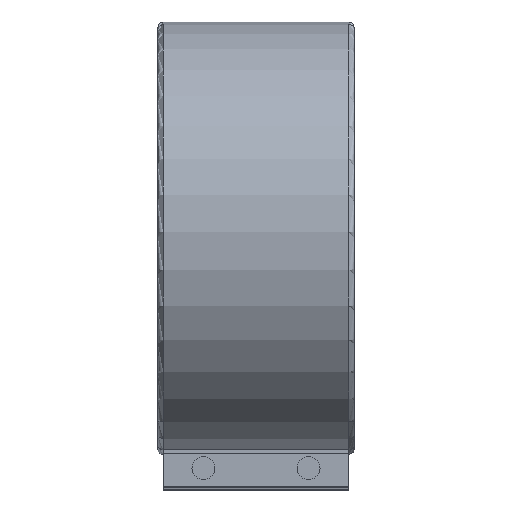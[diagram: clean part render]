
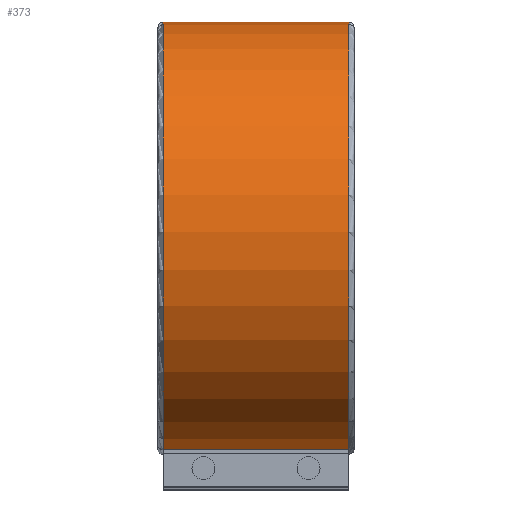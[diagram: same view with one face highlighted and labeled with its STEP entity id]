
A CAD part, top view. The second image highlights one B-rep face of the part: STEP entity #373.
In plain terms, the highlighted cylindrical face has radius 75 mm (diameter 150 mm), a partial arc.
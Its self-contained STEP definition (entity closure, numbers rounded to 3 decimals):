
#373 = ADVANCED_FACE( '', ( #791 ), #792, .T. );
#791 = FACE_OUTER_BOUND( '', #1204, .T. );
#792 = CYLINDRICAL_SURFACE( '', #1205, 75. );
#1204 = EDGE_LOOP( '', ( #2202, #2203, #2204, #2205 ) );
#1205 = AXIS2_PLACEMENT_3D( '', #2206, #2207, #2208 );
#2202 = ORIENTED_EDGE( '', *, *, #2246, .T. );
#2203 = ORIENTED_EDGE( '', *, *, #2298, .T. );
#2204 = ORIENTED_EDGE( '', *, *, #2456, .F. );
#2205 = ORIENTED_EDGE( '', *, *, #2270, .T. );
#2206 = CARTESIAN_POINT( '', ( 34., 0., 0. ) );
#2207 = DIRECTION( '', ( -1., 0., 0. ) );
#2208 = DIRECTION( '', ( 0., 0., -1. ) );
#2246 = EDGE_CURVE( '', #2645, #2646, #2647, .T. );
#2270 = EDGE_CURVE( '', #2688, #2645, #2689, .F. );
#2298 = EDGE_CURVE( '', #2646, #2737, #2738, .T. );
#2456 = EDGE_CURVE( '', #2688, #2737, #2985, .T. );
#2645 = VERTEX_POINT( '', #3227 );
#2646 = VERTEX_POINT( '', #3228 );
#2647 = CIRCLE( '', #3229, 75. );
#2688 = VERTEX_POINT( '', #3285 );
#2689 = LINE( '', #3286, #3287 );
#2737 = VERTEX_POINT( '', #3351 );
#2738 = LINE( '', #3352, #3353 );
#2985 = CIRCLE( '', #3719, 75. );
#3227 = CARTESIAN_POINT( '', ( -32.2, -73.328, -15.75 ) );
#3228 = CARTESIAN_POINT( '', ( -32.2, -73.328, 15.75 ) );
#3229 = AXIS2_PLACEMENT_3D( '', #4046, #4047, #4048 );
#3285 = CARTESIAN_POINT( '', ( 32.2, -73.328, -15.75 ) );
#3286 = CARTESIAN_POINT( '', ( 34., -73.328, -15.75 ) );
#3287 = VECTOR( '', #4079, 1000. );
#3351 = CARTESIAN_POINT( '', ( 32.2, -73.328, 15.75 ) );
#3352 = CARTESIAN_POINT( '', ( 34., -73.328, 15.75 ) );
#3353 = VECTOR( '', #4117, 1000. );
#3719 = AXIS2_PLACEMENT_3D( '', #4276, #4277, #4278 );
#4046 = CARTESIAN_POINT( '', ( -32.2, 0., 0. ) );
#4047 = DIRECTION( '', ( 1., 0., 0. ) );
#4048 = DIRECTION( '', ( 0., 0., -1. ) );
#4079 = DIRECTION( '', ( 1., 0., 0. ) );
#4117 = DIRECTION( '', ( 1., 0., 0. ) );
#4276 = CARTESIAN_POINT( '', ( 32.2, 0., 0. ) );
#4277 = DIRECTION( '', ( 1., 0., 0. ) );
#4278 = DIRECTION( '', ( 0., 0., -1. ) );
